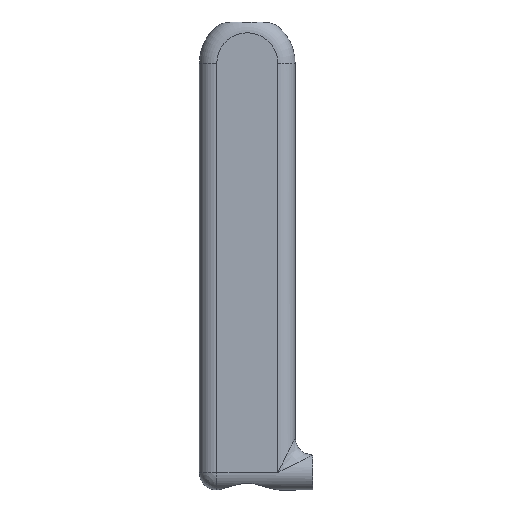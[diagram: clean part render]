
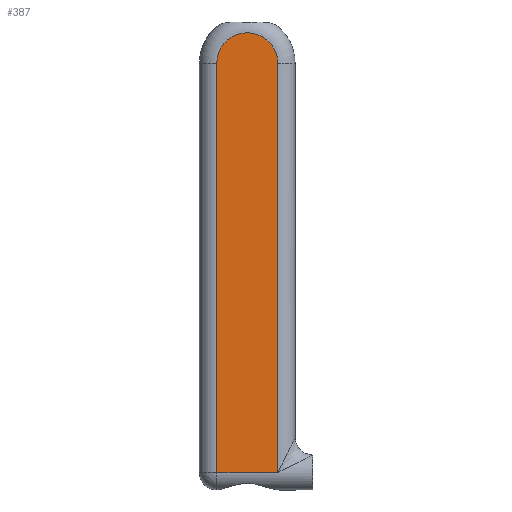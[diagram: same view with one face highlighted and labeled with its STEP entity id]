
A CAD part, front view. The second image highlights one B-rep face of the part: STEP entity #387.
In plain terms, the highlighted planar face has unit normal (0, -1, 0).
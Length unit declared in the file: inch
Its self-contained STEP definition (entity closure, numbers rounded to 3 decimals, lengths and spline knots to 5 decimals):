
#22=PLANE('',#450);
#53=FACE_OUTER_BOUND('',#76,.T.);
#76=EDGE_LOOP('',(#350,#351,#352,#353));
#81=LINE('',#750,#100);
#88=LINE('',#859,#107);
#95=LINE('',#877,#114);
#100=VECTOR('',#501,0.55118);
#107=VECTOR('',#536,3.70079);
#114=VECTOR('',#563,3.70079);
#132=CIRCLE('',#427,0.27559);
#170=VERTEX_POINT('',#740);
#173=VERTEX_POINT('',#748);
#175=VERTEX_POINT('',#754);
#176=VERTEX_POINT('',#756);
#213=EDGE_CURVE('',#173,#170,#81,.T.);
#216=EDGE_CURVE('',#175,#176,#132,.T.);
#229=EDGE_CURVE('',#176,#173,#88,.T.);
#239=EDGE_CURVE('',#170,#175,#95,.T.);
#350=ORIENTED_EDGE('',*,*,#229,.F.);
#351=ORIENTED_EDGE('',*,*,#216,.F.);
#352=ORIENTED_EDGE('',*,*,#239,.F.);
#353=ORIENTED_EDGE('',*,*,#213,.F.);
#387=ADVANCED_FACE('',(#53),#22,.F.);
#427=AXIS2_PLACEMENT_3D('',#757,#508,#509);
#450=AXIS2_PLACEMENT_3D('',#880,#568,#569);
#501=DIRECTION('',(-1.,0.,0.));
#508=DIRECTION('center_axis',(0.,1.,0.));
#509=DIRECTION('ref_axis',(0.,0.,1.));
#536=DIRECTION('',(0.,0.,-1.));
#563=DIRECTION('',(0.,0.,1.));
#568=DIRECTION('center_axis',(0.,1.,0.));
#569=DIRECTION('ref_axis',(0.,0.,1.));
#740=CARTESIAN_POINT('',(-0.27559,-0.43307,0.19685));
#748=CARTESIAN_POINT('',(0.27559,-0.43307,0.19685));
#750=CARTESIAN_POINT('',(0.27559,-0.43307,0.19685));
#754=CARTESIAN_POINT('',(-0.27559,-0.43307,3.89764));
#756=CARTESIAN_POINT('',(0.27559,-0.43307,3.89764));
#757=CARTESIAN_POINT('Origin',(0.,-0.43307,
3.89764));
#859=CARTESIAN_POINT('',(0.27559,-0.43307,3.89764));
#877=CARTESIAN_POINT('',(-0.27559,-0.43307,0.19685));
#880=CARTESIAN_POINT('Origin',(0.,-0.43307,
3.89764));
